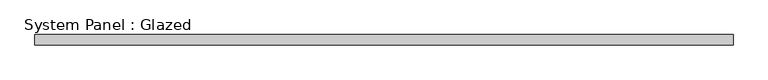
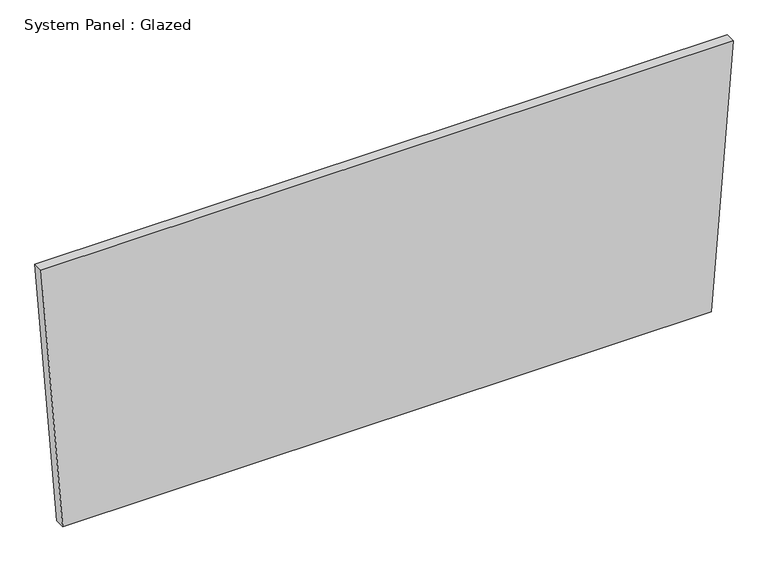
"""IFC4 building model written with IfcOpenShell, lengths in millimetres: plate geometry, System Panel : Glazed."""

from ifc_helpers import new_model, si_unit, frame, origin, place, context, project, spatial, polyline, outline, extrude, source, transform, mapped, element, save


def system_panel_glazed_f3bbe18e(model_context):
    return source(origin(), model_context, "Body", "SweptSolid", [
        extrude(outline(polyline([(0.0005975, -793.1761192), (0.0, 793.1761223), (682.2158175, 846.1260335), (682.2164549, -846.1260335), (0.0005975, -793.1761192)])), frame((0.0, 19.05, 0.0), z_axis=(0.0, 1.0, 0.0), x_axis=(0.0, 0.0, 1.0)), (0.0, 0.0, 1.0), 25.4),
    ])


if __name__ == "__main__":
    model = new_model("IFC4")
    model_context = context("Model", 3, world=origin())
    ifc_project = project(units=[si_unit("LENGTHUNIT", "METRE", prefix="MILLI")], contexts=[model_context])
    site = spatial("IfcSite", under=ifc_project)
    building = spatial("IfcBuilding", under=site)
    placement = place(None, origin())
    system_panel_glazed_shape = system_panel_glazed_f3bbe18e(model_context)
    element("IfcPlate", 1, ObjectType="System Panel : Glazed", at=placement, inside=building, context=model_context, shape_type="MappedRepresentation", body=[
        mapped(system_panel_glazed_shape, transform((0.0, 0.0, 0.0), x_axis=(1.0, 0.0, 0.0), y_axis=(0.0, 1.0, 0.0), z_axis=(0.0, 0.0, 1.0))),
    ])
    save(model, "model.ifc")
